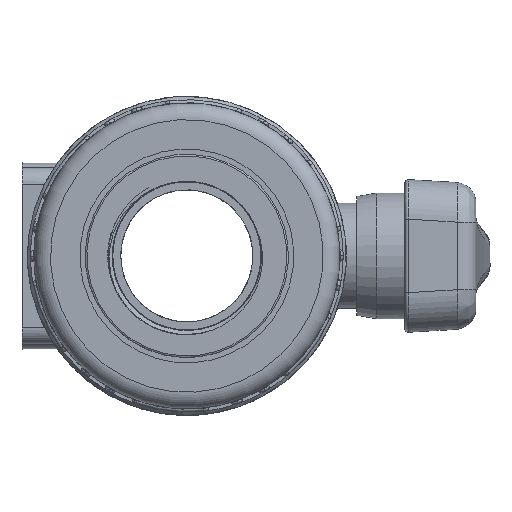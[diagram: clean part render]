
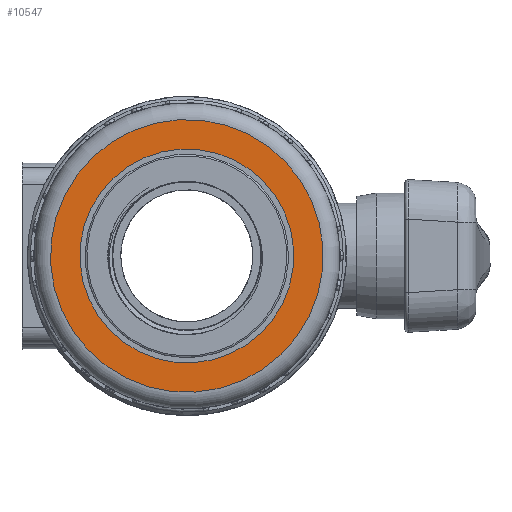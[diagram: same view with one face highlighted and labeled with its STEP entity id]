
A CAD part, front view. The second image highlights one B-rep face of the part: STEP entity #10547.
In plain terms, the highlighted planar face has unit normal (0, -1, 0).
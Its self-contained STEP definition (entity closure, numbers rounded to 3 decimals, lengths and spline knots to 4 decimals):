
#330=FACE_BOUND('',#1984,.T.);
#1297=FACE_OUTER_BOUND('',#1983,.T.);
#1983=EDGE_LOOP('',(#8169));
#1984=EDGE_LOOP('',(#8170));
#2557=CIRCLE('',#11436,4.125);
#2558=CIRCLE('',#11437,3.235);
#4547=VERTEX_POINT('',#43985);
#4548=VERTEX_POINT('',#43987);
#5828=EDGE_CURVE('',#4547,#4547,#2557,.T.);
#5829=EDGE_CURVE('',#4548,#4548,#2558,.T.);
#8169=ORIENTED_EDGE('',*,*,#5828,.F.);
#8170=ORIENTED_EDGE('',*,*,#5829,.T.);
#9437=PLANE('',#11435);
#10547=ADVANCED_FACE('',(#1297,#330),#9437,.T.);
#11435=AXIS2_PLACEMENT_3D('',#43984,#13485,#13486);
#11436=AXIS2_PLACEMENT_3D('',#43986,#13487,#13488);
#11437=AXIS2_PLACEMENT_3D('',#43988,#13489,#13490);
#13485=DIRECTION('center_axis',(0.,-1.,0.));
#13486=DIRECTION('ref_axis',(-0.592,0.,-0.806));
#13487=DIRECTION('center_axis',(0.,1.,0.));
#13488=DIRECTION('ref_axis',(0.806,0.,-0.592));
#13489=DIRECTION('center_axis',(0.,1.,0.));
#13490=DIRECTION('ref_axis',(0.806,0.,-0.592));
#43984=CARTESIAN_POINT('Origin',(-3.323,-5.1,2.4441));
#43985=CARTESIAN_POINT('',(-3.323,-5.1,2.4441));
#43986=CARTESIAN_POINT('Origin',(0.,-5.1,0.));
#43987=CARTESIAN_POINT('',(-2.606,-5.1,1.9167));
#43988=CARTESIAN_POINT('Origin',(0.,-5.1,0.));
